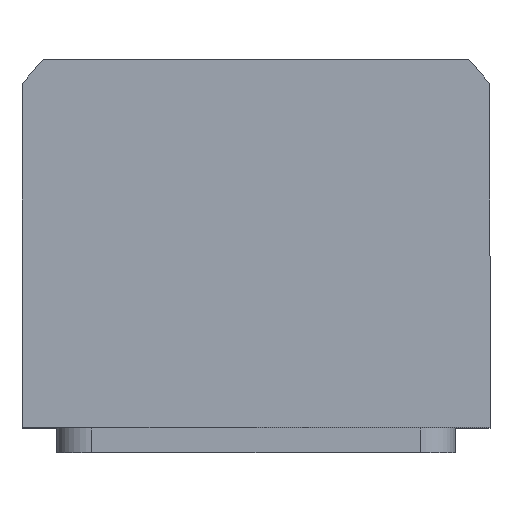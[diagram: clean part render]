
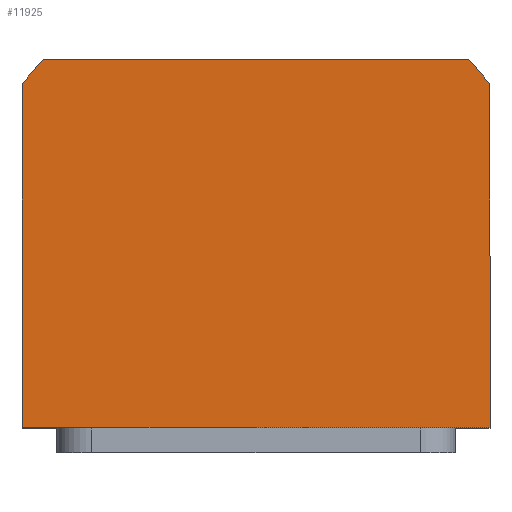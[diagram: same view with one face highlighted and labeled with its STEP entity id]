
A CAD part, top view. The second image highlights one B-rep face of the part: STEP entity #11925.
In plain terms, the highlighted planar face has unit normal (0, 0, 1).
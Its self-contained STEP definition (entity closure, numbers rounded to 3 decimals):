
#143 = DIRECTION ( 'NONE',  ( 0., 1., 0. ) ) ;
#412 = FACE_OUTER_BOUND ( 'NONE', #13140, .T. ) ;
#632 = VECTOR ( 'NONE', #12753, 1000. ) ;
#793 = DIRECTION ( 'NONE',  ( 0., 0., 1. ) ) ;
#1034 = AXIS2_PLACEMENT_3D ( 'NONE', #4047, #10844, #13300 ) ;
#1212 = EDGE_CURVE ( 'NONE', #7173, #4561, #4956, .T. ) ;
#1394 = CARTESIAN_POINT ( 'NONE',  ( 47., -34., 55. ) ) ;
#1551 = VECTOR ( 'NONE', #14197, 1000. ) ;
#2765 = DIRECTION ( 'NONE',  ( -1., 0., 0. ) ) ;
#2905 = CARTESIAN_POINT ( 'NONE',  ( 47., 34.832, 55. ) ) ;
#3078 = ORIENTED_EDGE ( 'NONE', *, *, #9268, .T. ) ;
#3089 = CARTESIAN_POINT ( 'NONE',  ( 42.688, 40., 55. ) ) ;
#3199 = EDGE_CURVE ( 'NONE', #7323, #12699, #9561, .T. ) ;
#4047 = CARTESIAN_POINT ( 'NONE',  ( 0., 0., 55. ) ) ;
#4084 = AXIS2_PLACEMENT_3D ( 'NONE', #12162, #7580, #11960 ) ;
#4561 = VERTEX_POINT ( 'NONE', #8608 ) ;
#4956 = LINE ( 'NONE', #7105, #1551 ) ;
#5366 = VERTEX_POINT ( 'NONE', #1394 ) ;
#5838 = LINE ( 'NONE', #10324, #632 ) ;
#6146 = VECTOR ( 'NONE', #2765, 1000. ) ;
#6628 = VERTEX_POINT ( 'NONE', #2905 ) ;
#6909 = CARTESIAN_POINT ( 'NONE',  ( 47., 34.832, 55. ) ) ;
#7105 = CARTESIAN_POINT ( 'NONE',  ( -47., -34., 55. ) ) ;
#7173 = VERTEX_POINT ( 'NONE', #8480 ) ;
#7323 = VERTEX_POINT ( 'NONE', #3089 ) ;
#7347 = ORIENTED_EDGE ( 'NONE', *, *, #10739, .T. ) ;
#7580 = DIRECTION ( 'NONE',  ( 0., 0., 1. ) ) ;
#7603 = EDGE_CURVE ( 'NONE', #12699, #7173, #13286, .T. ) ;
#7707 = CIRCLE ( 'NONE', #4084, 58.5 ) ;
#8121 = DIRECTION ( 'NONE',  ( 1., 0., 0. ) ) ;
#8225 = ORIENTED_EDGE ( 'NONE', *, *, #10646, .T. ) ;
#8480 = CARTESIAN_POINT ( 'NONE',  ( -47., 34.832, 55. ) ) ;
#8608 = CARTESIAN_POINT ( 'NONE',  ( -47., -34., 55. ) ) ;
#8810 = ORIENTED_EDGE ( 'NONE', *, *, #7603, .T. ) ;
#9268 = EDGE_CURVE ( 'NONE', #6628, #7323, #7707, .T. ) ;
#9561 = LINE ( 'NONE', #9915, #6146 ) ;
#9915 = CARTESIAN_POINT ( 'NONE',  ( -42.688, 40., 55. ) ) ;
#10324 = CARTESIAN_POINT ( 'NONE',  ( 47., -34., 55. ) ) ;
#10646 = EDGE_CURVE ( 'NONE', #5366, #6628, #10923, .T. ) ;
#10739 = EDGE_CURVE ( 'NONE', #4561, #5366, #5838, .T. ) ;
#10844 = DIRECTION ( 'NONE',  ( 0., 0., 1. ) ) ;
#10923 = LINE ( 'NONE', #6909, #11628 ) ;
#11628 = VECTOR ( 'NONE', #143, 1000. ) ;
#11814 = AXIS2_PLACEMENT_3D ( 'NONE', #12300, #793, #8121 ) ;
#11925 = ADVANCED_FACE ( 'NONE', ( #412 ), #13350, .T. ) ;
#11960 = DIRECTION ( 'NONE',  ( 1., 0., 0. ) ) ;
#12162 = CARTESIAN_POINT ( 'NONE',  ( 0., 0., 55. ) ) ;
#12300 = CARTESIAN_POINT ( 'NONE',  ( 0., 0., 55. ) ) ;
#12699 = VERTEX_POINT ( 'NONE', #14744 ) ;
#12753 = DIRECTION ( 'NONE',  ( 1., 0., 0. ) ) ;
#13140 = EDGE_LOOP ( 'NONE', ( #7347, #8225, #3078, #13932, #8810, #14627 ) ) ;
#13286 = CIRCLE ( 'NONE', #11814, 58.5 ) ;
#13300 = DIRECTION ( 'NONE',  ( 1., 0., 0. ) ) ;
#13350 = PLANE ( 'NONE',  #1034 ) ;
#13932 = ORIENTED_EDGE ( 'NONE', *, *, #3199, .T. ) ;
#14197 = DIRECTION ( 'NONE',  ( 0., -1., 0. ) ) ;
#14627 = ORIENTED_EDGE ( 'NONE', *, *, #1212, .T. ) ;
#14744 = CARTESIAN_POINT ( 'NONE',  ( -42.688, 40., 55. ) ) ;
